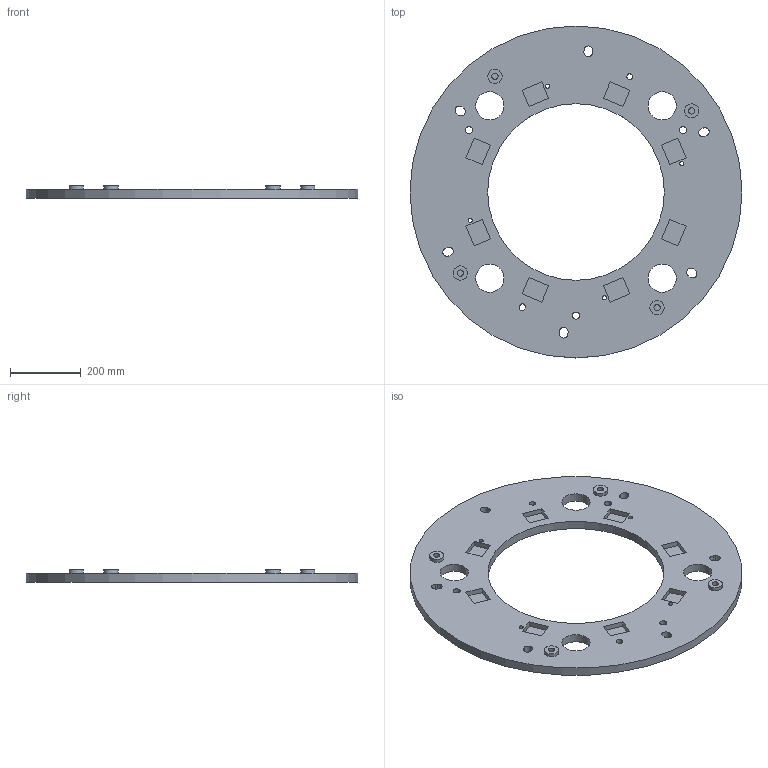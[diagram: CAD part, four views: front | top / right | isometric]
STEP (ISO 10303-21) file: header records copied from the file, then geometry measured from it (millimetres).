
FILE_DESCRIPTION(('Open CASCADE Model'),'2;1');
FILE_NAME('Open CASCADE Shape Model','2026-09-07T11:14:06',('Author'),( 'Open CASCADE'),'Open CASCADE STEP processor 7.9','Open CASCADE 7.9' ,'Unknown');
FILE_SCHEMA(('AUTOMOTIVE_DESIGN { 1 0 10303 214 1 1 1 1 }'));
Length unit declared in the file: millimetre
Products named in the file (1): Open CASCADE STEP translator 7.9 6
Bounding box: 940 x 940 x 35 mm (x, y, z)
Volume: 11462989.1 mm3; surface area: 1144739.8 mm2
Topology: 1 solids, 1 shells, 100 faces, 246 edges, 164 vertices
Faces by surface type: plane 64, cylinder 36
Full cylindrical faces by diameter (mm): 12 x4, 16.5 x1, 17.5 x4, 20 x3, 40 x4, 80 x4, 500 x1, 940 x1
Entity records: 6298 total; most frequent: CARTESIAN_POINT 1459, DIRECTION 836, ORIENTED_EDGE 492, PCURVE 492, DEFINITIONAL_REPRESENTATION 492, LINE 474, VECTOR 474, EDGE_CURVE 246
